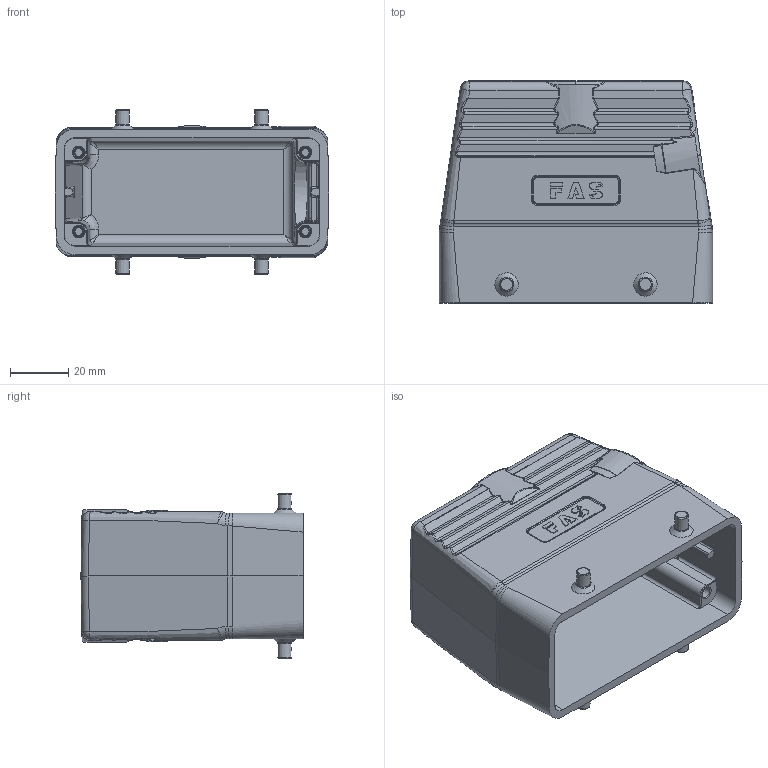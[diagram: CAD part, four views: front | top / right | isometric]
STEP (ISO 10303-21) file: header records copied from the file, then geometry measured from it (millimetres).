
FILE_DESCRIPTION (( 'STEP AP203' ), '1' );
FILE_NAME ('H16B-TSH-M32.STEP', '2023-06-07T08:47:51', ( '' ), ( '' ), 'SwSTEP 2.0', 'SolidWorks 2016', '' );
FILE_SCHEMA (( 'CONFIG_CONTROL_DESIGN' ));
Length unit declared in the file: millimetre
Products named in the file (1): H16B-TSH-M32
Bounding box: 93.5 x 76 x 56.4 mm (x, y, z)
Volume: 89782.8 mm3; surface area: 42018.4 mm2
Topology: 1 solids, 1 shells, 608 faces, 1558 edges, 978 vertices
Faces by surface type: bspline 200, plane 175, cylinder 163, cone 32, torus 26, sphere 12
Full cylindrical faces by diameter (mm): 30.5 x1
Entity records: 32514 total; most frequent: CARTESIAN_POINT 20653, ORIENTED_EDGE 3002, DIRECTION 1539, EDGE_CURVE 1501, VERTEX_POINT 956, B_SPLINE_CURVE_WITH_KNOTS 829, EDGE_LOOP 663, FACE_OUTER_BOUND 613
